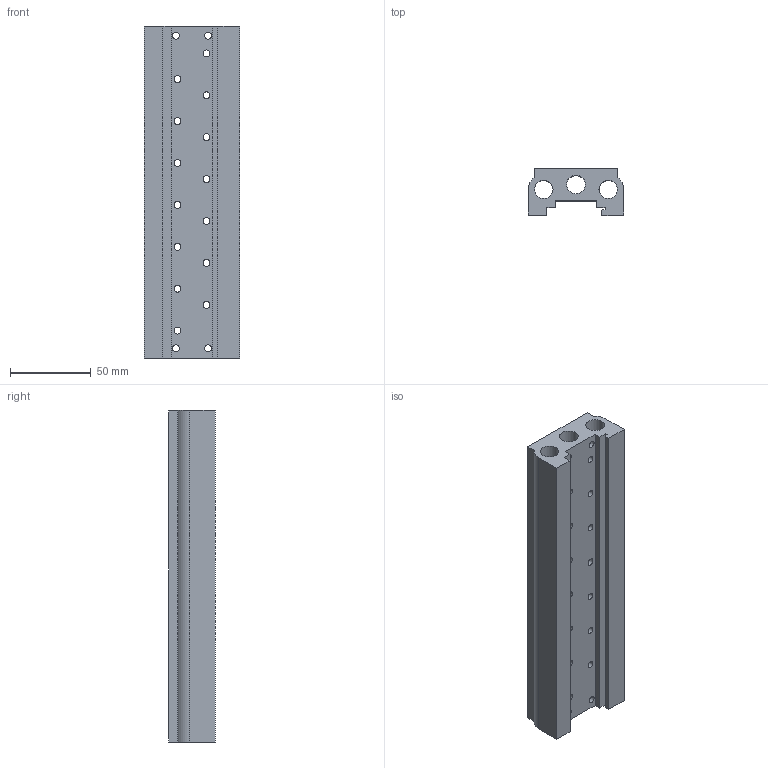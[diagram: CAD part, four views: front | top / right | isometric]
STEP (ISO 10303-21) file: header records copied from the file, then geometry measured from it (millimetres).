
FILE_DESCRIPTION((''),'2;1');
FILE_NAME('K:\A-Roberto\_Inventor\Rev.Librerie\TECNOECO\T488_ ##\T488_ 07.stp','2006-10-06T08:55:22',('rivolro1'),(''),'Autodesk Inventor 11','Autodesk Inventor 11','');
FILE_SCHEMA(('AUTOMOTIVE_DESIGN { 1 0 10303 214 1 1 1 1 }'));
Length unit declared in the file: millimetre
Products named in the file (1): T488_ 07
Bounding box: 59 x 29 x 206 mm (x, y, z)
Volume: 205497.2 mm3; surface area: 71824.9 mm2
Topology: 1 solids, 1 shells, 168 faces, 388 edges, 254 vertices
Faces by surface type: bspline 145, plane 18, cylinder 5
Full cylindrical faces by diameter (mm): 11.5 x3
Entity records: 7206 total; most frequent: CARTESIAN_POINT 4228, ORIENTED_EDGE 516, DIRECTION 444, EDGE_LOOP 386, EDGE_CURVE 258, VERTEX_POINT 226, FACE_BOUND 218, AXIS2_PLACEMENT_3D 197
